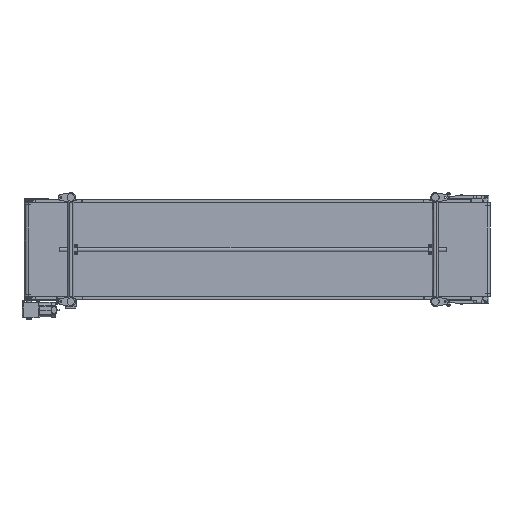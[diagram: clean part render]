
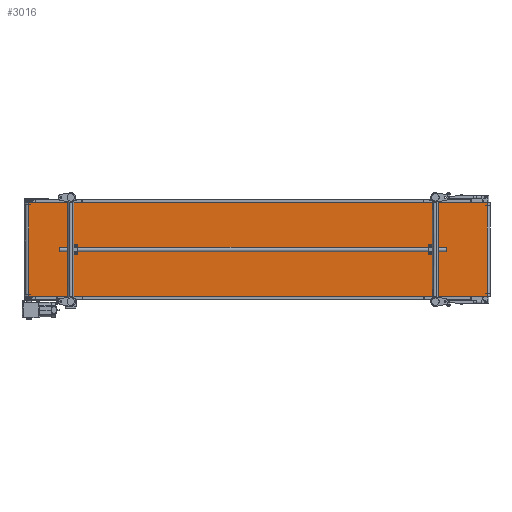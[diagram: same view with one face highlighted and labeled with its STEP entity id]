
A CAD part, front view. The second image highlights one B-rep face of the part: STEP entity #3016.
In plain terms, the highlighted planar face has unit normal (0.009, -1, 0).
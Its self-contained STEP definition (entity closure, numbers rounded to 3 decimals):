
#3016=ADVANCED_FACE('',(#17325),#17324,.F.);
#17324=PLANE('',#30496);
#17325=FACE_OUTER_BOUND('',#30497,.T.);
#30493=CARTESIAN_POINT('',(2994.082,-33.109,-310.));
#30494=DIRECTION('',(-0.009,1.,0.));
#30495=DIRECTION('',(-1.,-0.009,0.));
#30496=AXIS2_PLACEMENT_3D('',#30493,#30494,#30495);
#30497=EDGE_LOOP('',(#39686,#39687,#39688,#39689));
#39686=ORIENTED_EDGE('',*,*,#45474,.T.);
#39687=ORIENTED_EDGE('',*,*,#45485,.F.);
#39688=ORIENTED_EDGE('',*,*,#45464,.F.);
#39689=ORIENTED_EDGE('',*,*,#45486,.T.);
#45464=EDGE_CURVE('',#68559,#68566,#68567,.T.);
#45474=EDGE_CURVE('',#68615,#68629,#68636,.T.);
#45485=EDGE_CURVE('',#68566,#68629,#68709,.T.);
#45486=EDGE_CURVE('',#68559,#68615,#68715,.T.);
#68559=VERTEX_POINT('',#90974);
#68566=VERTEX_POINT('',#90979);
#68567=LINE('',#90980,#90981);
#68615=VERTEX_POINT('',#91010);
#68629=VERTEX_POINT('',#91019);
#68636=LINE('',#91024,#91025);
#68709=LINE('',#91066,#91067);
#68715=LINE('',#91069,#91070);
#90974=CARTESIAN_POINT('',(30.785,-59.949,300.));
#90979=CARTESIAN_POINT('',(2984.082,-33.199,300.));
#90980=CARTESIAN_POINT('',(30.785,-59.949,300.));
#90981=VECTOR('',#90982,2953.419);
#90982=DIRECTION('',(1.,0.009,0.));
#91010=CARTESIAN_POINT('',(30.785,-59.949,-300.));
#91019=CARTESIAN_POINT('',(2984.082,-33.199,-300.));
#91024=CARTESIAN_POINT('',(30.785,-59.949,-300.));
#91025=VECTOR('',#91026,2953.419);
#91026=DIRECTION('',(1.,0.009,0.));
#91066=CARTESIAN_POINT('',(2984.082,-33.199,300.));
#91067=VECTOR('',#91068,600.);
#91068=DIRECTION('',(0.,0.,-1.));
#91069=CARTESIAN_POINT('',(30.785,-59.949,300.));
#91070=VECTOR('',#91071,600.);
#91071=DIRECTION('',(0.,0.,-1.));
